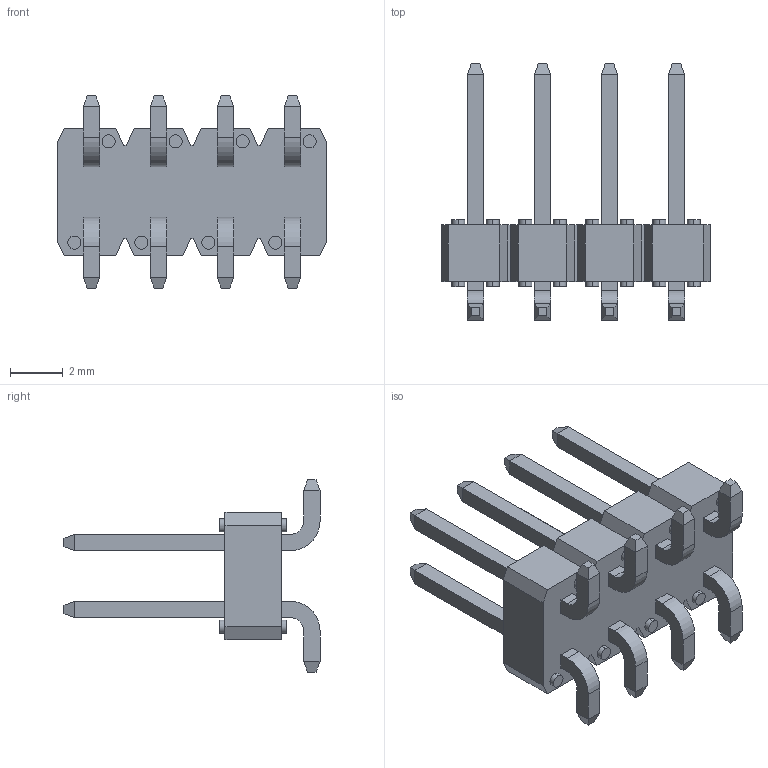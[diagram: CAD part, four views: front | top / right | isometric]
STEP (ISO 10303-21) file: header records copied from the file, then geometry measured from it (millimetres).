
FILE_DESCRIPTION (( 'STEP AP214' ), '1' );
FILE_NAME ('95278-801A08LF.STEP', '2023-05-26T04:42:42', ( '' ), ( '' ), 'SwSTEP 2.0', 'SolidWorks 2021', '' );
FILE_SCHEMA (( 'AUTOMOTIVE_DESIGN' ));
Length unit declared in the file: millimetre
Products named in the file (3): 95278 body-goldtin_08; 95278-801A08LF; pin^95278-additional-goldtin
Assembly tree (5 placements, depth 2):
  95278-801A08LF
    95278 body-goldtin_08
    pin^95278-additional-goldtin  x4
Bounding box: 10.16 x 9.7 x 7.3 mm (x, y, z)
Volume: 129.4 mm3; surface area: 440.4 mm2
Topology: 17 solids, 17 shells, 306 faces, 704 edges, 448 vertices
Faces by surface type: plane 258, cylinder 48
Entity records: 4873 total; most frequent: CARTESIAN_POINT 818, DIRECTION 804, ORIENTED_EDGE 784, EDGE_CURVE 392, LINE 320, VECTOR 320, VERTEX_POINT 256, AXIS2_PLACEMENT_3D 242
